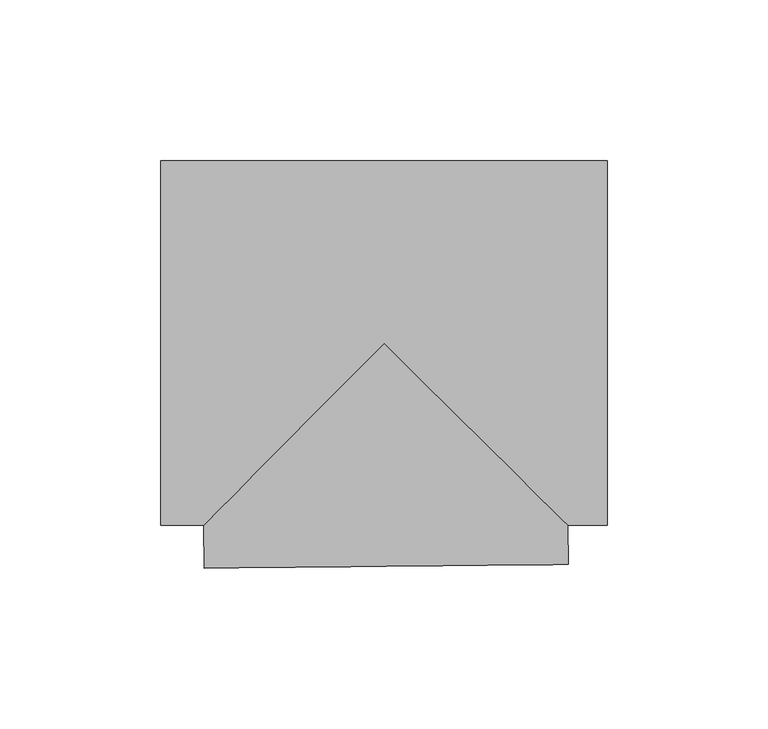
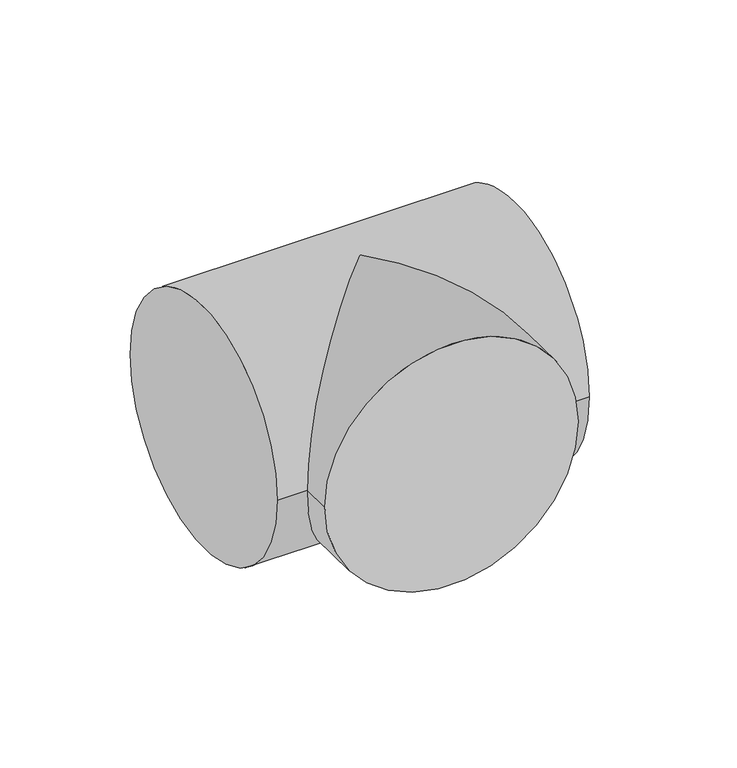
"""IFC4 building model written with IfcOpenShell, lengths in millimetres: pipe fitting geometry, M_Te - Genérica : Estándar."""

from ifc_helpers import new_model, si_unit, frame, origin, place, context, project, spatial, circle_curve, ellipse_curve, source, transform, mapped, element, save
from ifc_brep_helpers import plane_surface, cylinder_surface, advanced_brep


def pipe_fitting_3877afa0(model_context):
    return source(origin(), model_context, "Body", "AdvancedBrep", [
        advanced_brep(
        [(-69.2875, -56.5875, 0.0), (-69.2875, 56.5875, 0.0), (69.2875, -56.5875, 0.0), (69.2875, 56.5875, 0.0), (-56.0244543, -56.5875, 0.0), (0.0, 0.0, 56.5875), (57.1562043, -56.5875, 0.0), (0.0, 0.0, -56.5875), (-55.8918305, -69.8498826, 0.0), (57.2775112, -68.7181892, 0.0)],
        [
            (0, 1, circle_curve(frame((-69.2875, 0.0, 0.0), z_axis=(-1.0, 0.0, 0.0), x_axis=(0.0, 1.0, 0.0)), 56.5875)),
            (1, 0, circle_curve(frame((-69.2875, 0.0, 0.0), z_axis=(-1.0, 0.0, 0.0), x_axis=(0.0, 1.0, 0.0)), 56.5875)),
            (2, 3, circle_curve(frame((69.2875, 0.0, 0.0), z_axis=(1.0, 0.0, 0.0), x_axis=(0.0, 1.0, 0.0)), 56.5875)),
            (3, 2, circle_curve(frame((69.2875, 0.0, 0.0), z_axis=(1.0, 0.0, 0.0), x_axis=(0.0, 1.0, 0.0)), 56.5875)),
            (0, 4),
            (4, 5, ellipse_curve(frame((0.0, 0.0, 0.0), z_axis=(-0.7106333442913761, 0.7035625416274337, 0.0), x_axis=(-0.7035625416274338, -0.710633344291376, 0.0)), 79.6296718, 56.5875)),
            (5, 6, ellipse_curve(frame((0.0, 0.0, 0.0), z_axis=(0.7035625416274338, 0.7106333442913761, 0.0), x_axis=(-0.7106333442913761, 0.7035625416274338, 0.0)), 80.4299499, 56.5875)),
            (6, 2),
            (3, 1),
            (6, 7, ellipse_curve(frame((0.0, 0.0, 0.0), z_axis=(0.7035625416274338, 0.7106333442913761, 0.0), x_axis=(-0.7106333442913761, 0.7035625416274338, 0.0)), 80.4299499, 56.5875)),
            (7, 4, ellipse_curve(frame((0.0, 0.0, 0.0), z_axis=(-0.7106333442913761, 0.7035625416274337, 0.0), x_axis=(-0.7035625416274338, -0.710633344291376, 0.0)), 79.6296718, 56.5875)),
            (8, 9, circle_curve(frame((0.6928404, -69.2840359, 0.0), z_axis=(0.00999950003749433, -0.9999500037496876, 0.0), x_axis=(0.9999500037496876, 0.00999950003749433, 0.0)), 56.5875)),
            (9, 8, circle_curve(frame((0.6928404, -69.2840359, 0.0), z_axis=(0.00999950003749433, -0.9999500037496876, 0.0), x_axis=(0.9999500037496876, 0.00999950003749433, 0.0)), 56.5875)),
            (9, 6),
            (4, 8),
        ],
        [
            plane_surface(frame((-69.2875, 0.0, 0.0), z_axis=(-1.0, 0.0, 0.0), x_axis=(0.0, 0.0, 1.0))),
            plane_surface(frame((69.2875, 0.0, 0.0), z_axis=(1.0, 0.0, 0.0), x_axis=(0.0, 0.0, 1.0))),
            cylinder_surface(frame((-69.2875, 0.0, 0.0), z_axis=(-1.0, 0.0, 0.0), x_axis=(0.0, 1.0, 0.0)), 56.5875),
            plane_surface(frame((0.6928404, -69.2840359, 0.0), z_axis=(0.009999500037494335, -0.9999500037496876, 0.0), x_axis=(0.0, 0.0, 1.0))),
            cylinder_surface(frame((0.0, 0.0, 0.0), z_axis=(-0.00999950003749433, 0.9999500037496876, 0.0), x_axis=(0.9999500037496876, 0.00999950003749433, 0.0)), 56.5875),
        ],
        [
            (0, [[1, 2]]),
            (1, [[3, 4]]),
            (2, [[-1, 5, 6, 7, 8, -4, 9]]),
            (2, [[-2, -9, -3, -8, 10, 11, -5]]),
            (3, [[12, 13]]),
            (4, [[-13, 14, -7, -6, 15]]),
            (4, [[-12, -15, -11, -10, -14]]),
        ],
    ),
    ])


if __name__ == "__main__":
    model = new_model("IFC4")
    model_context = context("Model", 3, world=origin())
    ifc_project = project(units=[si_unit("LENGTHUNIT", "METRE", prefix="MILLI")], contexts=[model_context])
    site = spatial("IfcSite", under=ifc_project)
    building = spatial("IfcBuilding", under=site)
    placement = place(None, origin())
    pipe_fitting_shape = pipe_fitting_3877afa0(model_context)
    element("IfcPipeFitting", 1, ObjectType="M_Te - Genérica : Estándar", at=placement, inside=building, context=model_context, shape_type="MappedRepresentation", body=[
        mapped(pipe_fitting_shape, transform((0.0, 0.0, 0.0), x_axis=(1.0, 0.0, 0.0), y_axis=(0.0, 1.0, 0.0), z_axis=(0.0, 0.0, 1.0))),
    ])
    save(model, "model.ifc")
